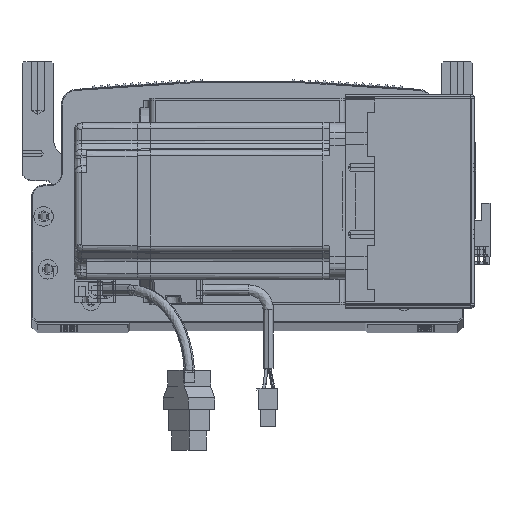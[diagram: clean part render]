
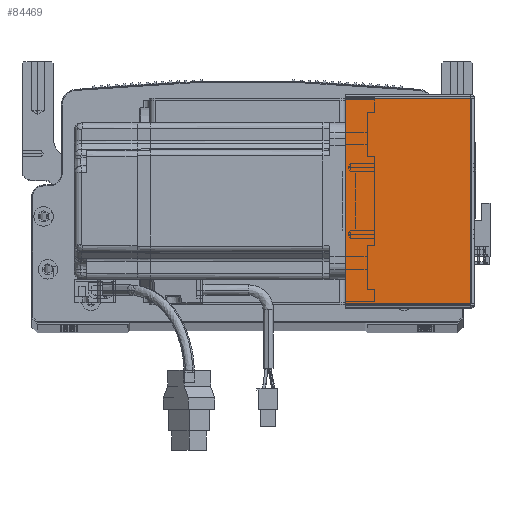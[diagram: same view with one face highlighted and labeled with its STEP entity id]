
A CAD part, top view. The second image highlights one B-rep face of the part: STEP entity #84469.
In plain terms, the highlighted planar face has unit normal (0, 0, 1) as drawn and (0, 0, -1) by its records, which use the part's own axes.
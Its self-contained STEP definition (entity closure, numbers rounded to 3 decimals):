
#2445 = LINE ( 'NONE', #3831, #15101 ) ;
#3831 = CARTESIAN_POINT ( 'NONE',  ( 0., 0.707, -205.5 ) ) ;
#7321 = LINE ( 'NONE', #85767, #44149 ) ;
#10303 = EDGE_CURVE ( 'NONE', #37028, #44448, #84659, .T. ) ;
#15101 = VECTOR ( 'NONE', #78583, 1000. ) ;
#15942 = VERTEX_POINT ( 'NONE', #36169 ) ;
#22042 = EDGE_LOOP ( 'NONE', ( #36144, #71313, #24431, #79563 ) ) ;
#23092 = EDGE_CURVE ( 'NONE', #37028, #15942, #91964, .T. ) ;
#24431 = ORIENTED_EDGE ( 'NONE', *, *, #83555, .T. ) ;
#31619 = CARTESIAN_POINT ( 'NONE',  ( 0., 105.293, -205.5 ) ) ;
#32819 = CARTESIAN_POINT ( 'NONE',  ( 64.5, 105.293, -205.5 ) ) ;
#36144 = ORIENTED_EDGE ( 'NONE', *, *, #23092, .F. ) ;
#36169 = CARTESIAN_POINT ( 'NONE',  ( 0.737, 0.707, -205.5 ) ) ;
#37028 = VERTEX_POINT ( 'NONE', #51366 ) ;
#39637 = VECTOR ( 'NONE', #61580, 1000. ) ;
#39726 = PLANE ( 'NONE',  #77463 ) ;
#40994 = DIRECTION ( 'NONE',  ( 1., 0., 0. ) ) ;
#44149 = VECTOR ( 'NONE', #92585, 1000. ) ;
#44448 = VERTEX_POINT ( 'NONE', #32819 ) ;
#51366 = CARTESIAN_POINT ( 'NONE',  ( 0.737, 105.293, -205.5 ) ) ;
#51762 = VERTEX_POINT ( 'NONE', #59850 ) ;
#58395 = VECTOR ( 'NONE', #63789, 1000. ) ;
#59850 = CARTESIAN_POINT ( 'NONE',  ( 64.5, 0.707, -205.5 ) ) ;
#61580 = DIRECTION ( 'NONE',  ( 1., 0., 0. ) ) ;
#62008 = CARTESIAN_POINT ( 'NONE',  ( 0., 0., -205.5 ) ) ;
#62966 = DIRECTION ( 'NONE',  ( 0., 0., 1. ) ) ;
#63789 = DIRECTION ( 'NONE',  ( 0., -1., 0. ) ) ;
#69460 = FACE_OUTER_BOUND ( 'NONE', #22042, .T. ) ;
#69923 = CARTESIAN_POINT ( 'NONE',  ( 0.737, 0., -205.5 ) ) ;
#71313 = ORIENTED_EDGE ( 'NONE', *, *, #10303, .T. ) ;
#77463 = AXIS2_PLACEMENT_3D ( 'NONE', #62008, #62966, #40994 ) ;
#78583 = DIRECTION ( 'NONE',  ( 1., 0., 0. ) ) ;
#79563 = ORIENTED_EDGE ( 'NONE', *, *, #88946, .F. ) ;
#83555 = EDGE_CURVE ( 'NONE', #44448, #51762, #7321, .T. ) ;
#84469 = ADVANCED_FACE ( 'NONE', ( #69460 ), #39726, .F. ) ;
#84659 = LINE ( 'NONE', #31619, #39637 ) ;
#85767 = CARTESIAN_POINT ( 'NONE',  ( 64.5, 0., -205.5 ) ) ;
#88946 = EDGE_CURVE ( 'NONE', #15942, #51762, #2445, .T. ) ;
#91964 = LINE ( 'NONE', #69923, #58395 ) ;
#92585 = DIRECTION ( 'NONE',  ( 0., -1., 0. ) ) ;
